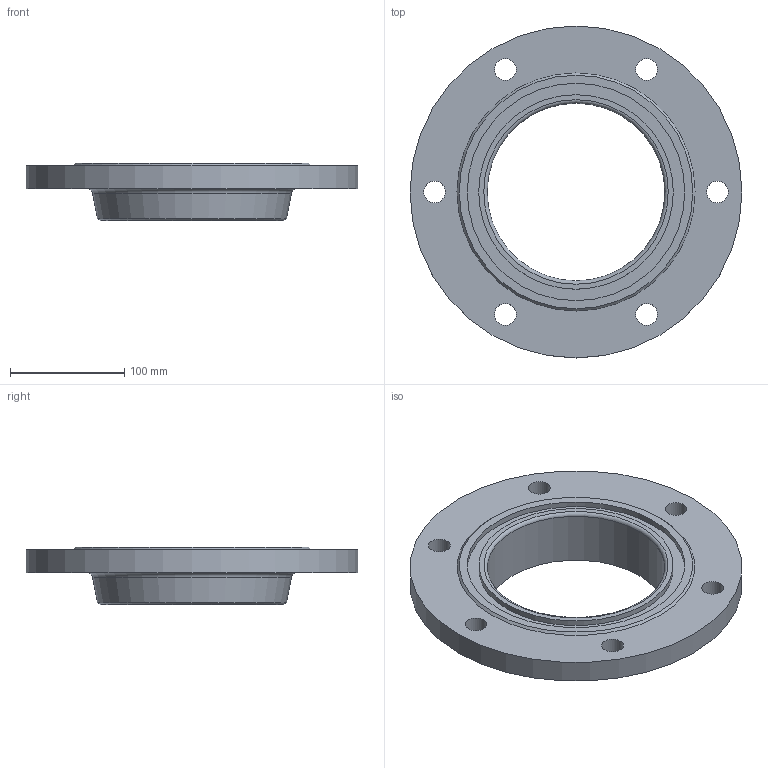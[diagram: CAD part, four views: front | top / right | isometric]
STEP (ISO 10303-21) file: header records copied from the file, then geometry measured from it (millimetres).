
FILE_DESCRIPTION(/* description */ (''),/* implementation_level */ '2;1');
FILE_NAME(/* name */ 'C:\Users\D\Documents\Inventor\HP\JIS\フランジ\水道用フランジF12\GF\ffws_gf_150.stp',/* time_stamp */ '2024-08-28T10:11:25+09:00',/* author */ ('D'),/* organization */ (''),/* preprocessor_version */ 'ST-DEVELOPER v18',/* originating_system */ 'Autodesk Inventor 2020',/* authorisation */ '');
FILE_SCHEMA (('AUTOMOTIVE_DESIGN { 1 0 10303 214 3 1 1 }'));
Length unit declared in the file: millimetre
Products named in the file (1): ffws_rf_80
Bounding box: 290 x 290 x 50 mm (x, y, z)
Volume: 1014689.6 mm3; surface area: 157402.1 mm2
Topology: 1 solids, 1 shells, 21 faces, 60 edges, 45 vertices
Faces by surface type: cylinder 10, plane 6, cone 3, torus 2
Full cylindrical faces by diameter (mm): 19 x6, 155.2 x1, 170 x1, 190 x1, 290 x1
Entity records: 810 total; most frequent: DIRECTION 151, CARTESIAN_POINT 127, ORIENTED_EDGE 120, AXIS2_PLACEMENT_3D 69, EDGE_CURVE 60, CIRCLE 47, VERTEX_POINT 45, EDGE_LOOP 39
